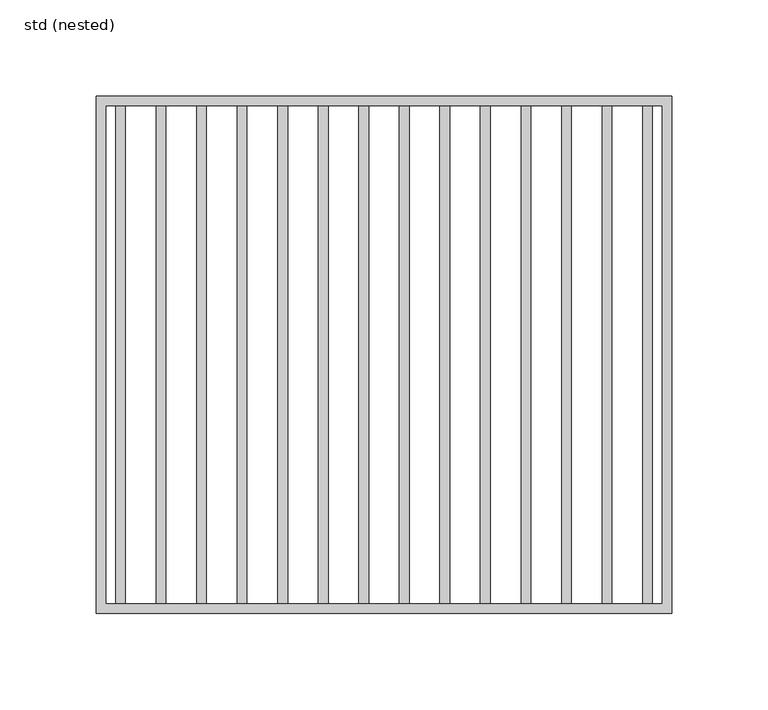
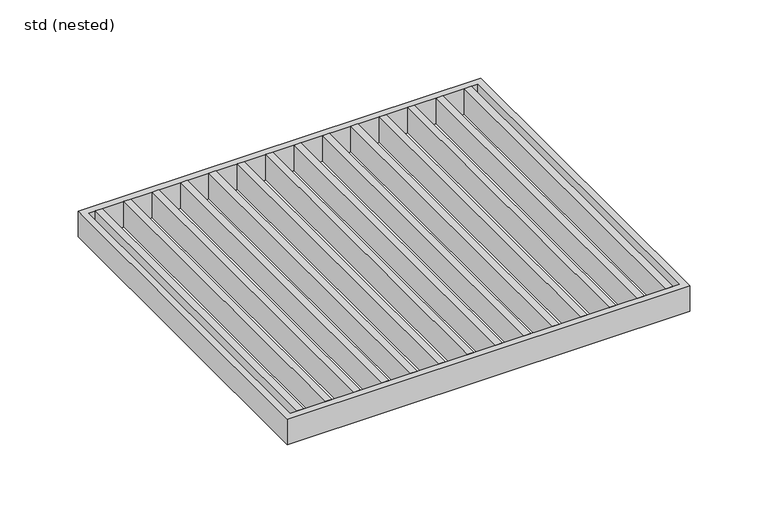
"""IFC4 building model written with IfcOpenShell, lengths in millimetres: sanitary terminal geometry, ZZZ_do not use_PF_ST_UN_grating for box channel_ACO : std (nested)."""

from ifc_helpers import new_model, si_unit, frame, origin, place, context, project, spatial, polyline, outline, extrude, source, transform, mapped, element, save


def std_nested_0e9dc0d2(model_context):
    return source(origin(), model_context, "Body", "SweptSolid", [
        extrude(outline(polyline([(-139.0, 129.0), (-134.0, 129.0), (-134.0, -129.0), (-139.0, -129.0), (-139.0, 129.0)])), frame((0.0, 0.0, -20.0), z_axis=(0.0, 0.0, 1.0), x_axis=(1.0, 0.0, 0.0)), (0.0, 0.0, 1.0), 20.0),
        extrude(outline(polyline([(-118.0, 129.0), (-113.0, 129.0), (-113.0, -129.0), (-118.0, -129.0), (-118.0, 129.0)])), frame((0.0, 0.0, -20.0), z_axis=(0.0, 0.0, 1.0), x_axis=(1.0, 0.0, 0.0)), (0.0, 0.0, 1.0), 20.0),
        extrude(outline(polyline([(-97.0, 129.0), (-92.0, 129.0), (-92.0, -129.0), (-97.0, -129.0), (-97.0, 129.0)])), frame((0.0, 0.0, -20.0), z_axis=(0.0, 0.0, 1.0), x_axis=(1.0, 0.0, 0.0)), (0.0, 0.0, 1.0), 20.0),
        extrude(outline(polyline([(-76.0, 129.0), (-71.0, 129.0), (-71.0, -129.0), (-76.0, -129.0), (-76.0, 129.0)])), frame((0.0, 0.0, -20.0), z_axis=(0.0, 0.0, 1.0), x_axis=(1.0, 0.0, 0.0)), (0.0, 0.0, 1.0), 20.0),
        extrude(outline(polyline([(-55.0, 129.0), (-50.0, 129.0), (-50.0, -129.0), (-55.0, -129.0), (-55.0, 129.0)])), frame((0.0, 0.0, -20.0), z_axis=(0.0, 0.0, 1.0), x_axis=(1.0, 0.0, 0.0)), (0.0, 0.0, 1.0), 20.0),
        extrude(outline(polyline([(-34.0, 129.0), (-29.0, 129.0), (-29.0, -129.0), (-34.0, -129.0), (-34.0, 129.0)])), frame((0.0, 0.0, -20.0), z_axis=(0.0, 0.0, 1.0), x_axis=(1.0, 0.0, 0.0)), (0.0, 0.0, 1.0), 20.0),
        extrude(outline(polyline([(139.0, 129.0), (139.0, -129.0), (134.0, -129.0), (134.0, 129.0), (139.0, 129.0)])), frame((0.0, 0.0, -20.0), z_axis=(0.0, 0.0, 1.0), x_axis=(1.0, 0.0, 0.0)), (0.0, 0.0, 1.0), 20.0),
        extrude(outline(polyline([(118.0, 129.0), (118.0, -129.0), (113.0, -129.0), (113.0, 129.0), (118.0, 129.0)])), frame((0.0, 0.0, -20.0), z_axis=(0.0, 0.0, 1.0), x_axis=(1.0, 0.0, 0.0)), (0.0, 0.0, 1.0), 20.0),
        extrude(outline(polyline([(97.0, 129.0), (97.0, -129.0), (92.0, -129.0), (92.0, 129.0), (97.0, 129.0)])), frame((0.0, 0.0, -20.0), z_axis=(0.0, 0.0, 1.0), x_axis=(1.0, 0.0, 0.0)), (0.0, 0.0, 1.0), 20.0),
        extrude(outline(polyline([(76.0, 129.0), (76.0, -129.0), (71.0, -129.0), (71.0, 129.0), (76.0, 129.0)])), frame((0.0, 0.0, -20.0), z_axis=(0.0, 0.0, 1.0), x_axis=(1.0, 0.0, 0.0)), (0.0, 0.0, 1.0), 20.0),
        extrude(outline(polyline([(55.0, 129.0), (55.0, -129.0), (50.0, -129.0), (50.0, 129.0), (55.0, 129.0)])), frame((0.0, 0.0, -20.0), z_axis=(0.0, 0.0, 1.0), x_axis=(1.0, 0.0, 0.0)), (0.0, 0.0, 1.0), 20.0),
        extrude(outline(polyline([(34.0, 129.0), (34.0, -129.0), (29.0, -129.0), (29.0, 129.0), (34.0, 129.0)])), frame((0.0, 0.0, -20.0), z_axis=(0.0, 0.0, 1.0), x_axis=(1.0, 0.0, 0.0)), (0.0, 0.0, 1.0), 20.0),
        extrude(outline(polyline([(-13.0, 129.0), (-8.0, 129.0), (-8.0, -129.0), (-13.0, -129.0), (-13.0, 129.0)])), frame((0.0, 0.0, -20.0), z_axis=(0.0, 0.0, 1.0), x_axis=(1.0, 0.0, 0.0)), (0.0, 0.0, 1.0), 20.0),
        extrude(outline(polyline([(13.0, 129.0), (13.0, -129.0), (8.0, -129.0), (8.0, 129.0), (13.0, 129.0)])), frame((0.0, 0.0, -20.0), z_axis=(0.0, 0.0, 1.0), x_axis=(1.0, 0.0, 0.0)), (0.0, 0.0, 1.0), 20.0),
        extrude(outline(polyline([(149.0, 134.0), (149.0, -134.0), (-149.0, -134.0), (-149.0, 134.0), (149.0, 134.0)]), holes=[polyline([(144.0, 129.0), (-144.0, 129.0), (-144.0, -129.0), (144.0, -129.0), (144.0, 129.0)])]), frame((0.0, 0.0, -20.0), z_axis=(0.0, 0.0, 1.0), x_axis=(1.0, 0.0, 0.0)), (0.0, 0.0, 1.0), 20.0),
    ])


if __name__ == "__main__":
    model = new_model("IFC4")
    model_context = context("Model", 3, world=origin())
    ifc_project = project(units=[si_unit("LENGTHUNIT", "METRE", prefix="MILLI")], contexts=[model_context])
    site = spatial("IfcSite", under=ifc_project)
    building = spatial("IfcBuilding", under=site)
    placement = place(None, origin())
    std_nested_shape = std_nested_0e9dc0d2(model_context)
    element("IfcSanitaryTerminal", 1, ObjectType="ZZZ_do not use_PF_ST_UN_grating for box channel_ACO : std (nested)", at=placement, inside=building, context=model_context, shape_type="MappedRepresentation", body=[
        mapped(std_nested_shape, transform((0.0, 0.0, 0.0), x_axis=(1.0, 0.0, 0.0), y_axis=(0.0, 1.0, 0.0), z_axis=(0.0, 0.0, 1.0))),
    ])
    save(model, "model.ifc")
